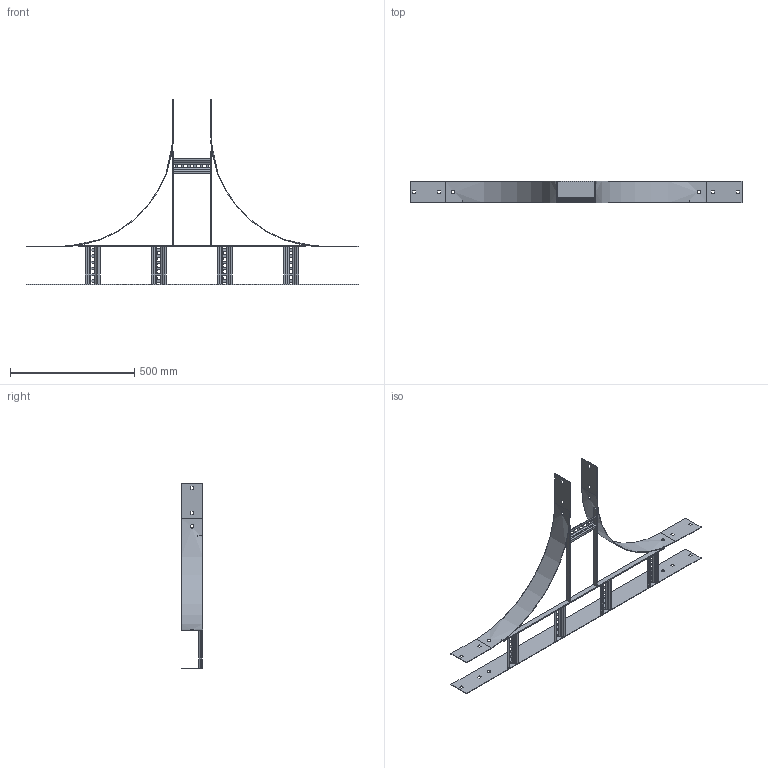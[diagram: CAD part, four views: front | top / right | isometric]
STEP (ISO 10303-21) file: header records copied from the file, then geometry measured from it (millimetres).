
FILE_DESCRIPTION (( 'STEP AP203' ), '1' );
FILE_NAME ('N2 T 1504.STEP', '2020-04-27T02:04:13', ( '' ), ( '' ), 'SwSTEP 2.0', 'SolidWorks 2020', '' );
FILE_SCHEMA (( 'CONFIG_CONTROL_DESIGN' ));
Length unit declared in the file: millimetre
Products named in the file (6): Ladder Rung_Ladder Rung -  150mm; N2 T 1504; Ladder Tee 20x5 Flat Bar_378; N2 RADIUS PLATE_N1-450 IR; N2 Back Plate_1350; Ladder Tee 20x5 Flat Bar_916
Assembly tree (11 placements, depth 2):
  N2 T 1504
    N2 Back Plate_1350
    Ladder Rung_Ladder Rung -  150mm  x5
    Ladder Tee 20x5 Flat Bar_916
    N2 RADIUS PLATE_N1-450 IR  x2
    Ladder Tee 20x5 Flat Bar_378  x2
Bounding box: 1335 x 87 x 744.5 mm (x, y, z)
Volume: 818844.3 mm3; surface area: 778011.5 mm2
Topology: 11 solids, 11 shells, 442 faces, 1084 edges, 664 vertices
Faces by surface type: plane 386, cylinder 56
Entity records: 5212 total; most frequent: CARTESIAN_POINT 1052, ORIENTED_EDGE 688, DIRECTION 668, EDGE_CURVE 344, VECTOR 308, LINE 308, VERTEX_POINT 216, AXIS2_PLACEMENT_3D 180
